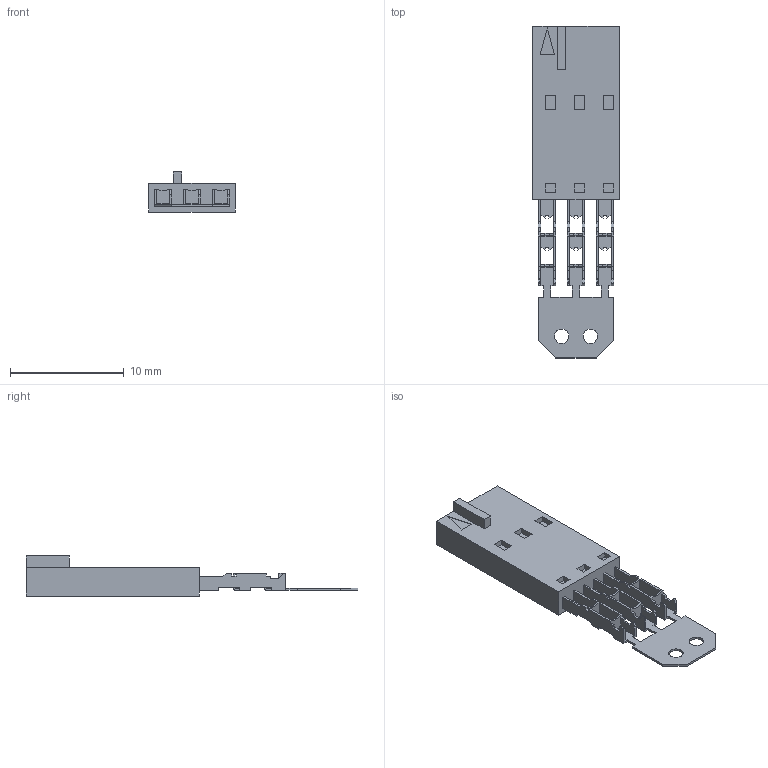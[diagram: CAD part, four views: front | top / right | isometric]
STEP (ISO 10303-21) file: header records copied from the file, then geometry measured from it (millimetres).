
FILE_DESCRIPTION((''),'2;1');
FILE_NAME('014567035','2016-12-07T',('ksrinivasara'),(''),'PRO/ENGINEER BY PARAMETRIC TECHNOLOGY CORPORATION, 2012310','PRO/ENGINEER BY PARAMETRIC TECHNOLOGY CORPORATION, 2012310','');
FILE_SCHEMA(('CONFIG_CONTROL_DESIGN'));
Length unit declared in the file: inch
Products named in the file (1): 014567035
Bounding box: 7.59 x 29.21 x 3.53 mm (x, y, z)
Volume: 308.5 mm3; surface area: 625.1 mm2
Topology: 1 solids, 1 shells, 341 faces, 1016 edges, 655 vertices
Faces by surface type: plane 325, cylinder 16
Entity records: 11271 total; most frequent: ORIENTED_EDGE 2028, CARTESIAN_POINT 2010, DIRECTION 1734, EDGE_CURVE 1014, VECTOR 984, LINE 984, VERTEX_POINT 651, AXIS2_PLACEMENT_3D 375
